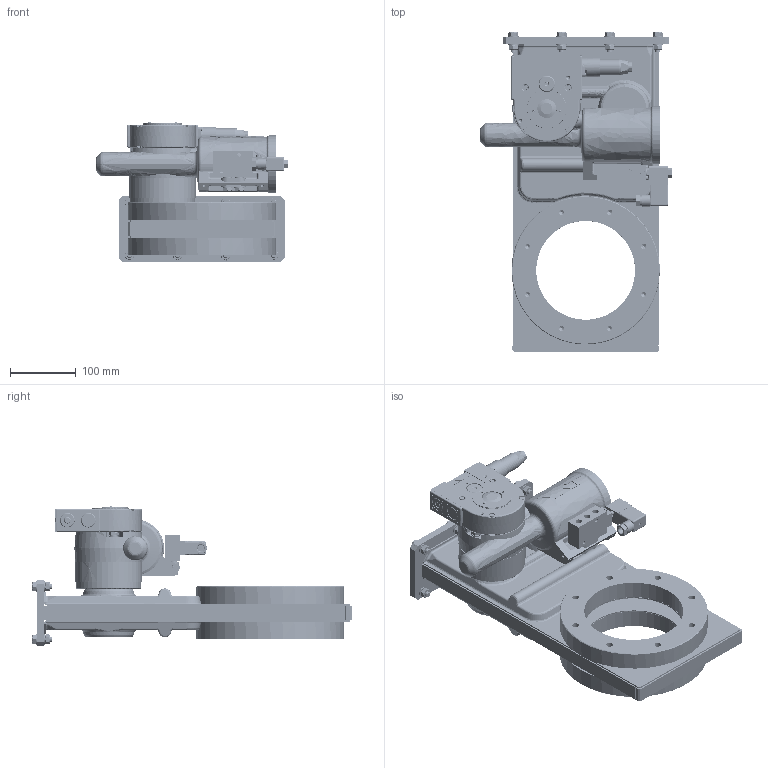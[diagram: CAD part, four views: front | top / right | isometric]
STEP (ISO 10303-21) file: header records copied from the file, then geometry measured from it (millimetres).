
FILE_DESCRIPTION((''),'2;1');
FILE_NAME('O:\MT\MT\Systeme\Cad\Datenexporte\www_vat_ch\102015.stp','2005-07-29T10:12:40',('User'),('SDRC'),'I-DEAS Master Series 9','UNIX','Yes');
FILE_SCHEMA(('CONFIG_CONTROL_DESIGN'));
Length unit declared in the file: millimetre
Assembly tree (80 placements, depth 0):
Bounding box: 290.8 x 483.9 x 211.95 mm (x, y, z)
Volume: 3089227 mm3; surface area: 1146063.3 mm2
Topology: 109 solids, 109 shells, 2844 faces, 6438 edges, 4084 vertices
Faces by surface type: bspline 2844
Entity records: 71086 total; most frequent: CARTESIAN_POINT 37101, ORIENTED_EDGE 9220, EDGE_CURVE 4610, VERTEX_POINT 2941, EDGE_LOOP 2345, FACE_OUTER_BOUND 1967, ADVANCED_FACE 1967, B_SPLINE_CURVE_WITH_KNOTS 1442
